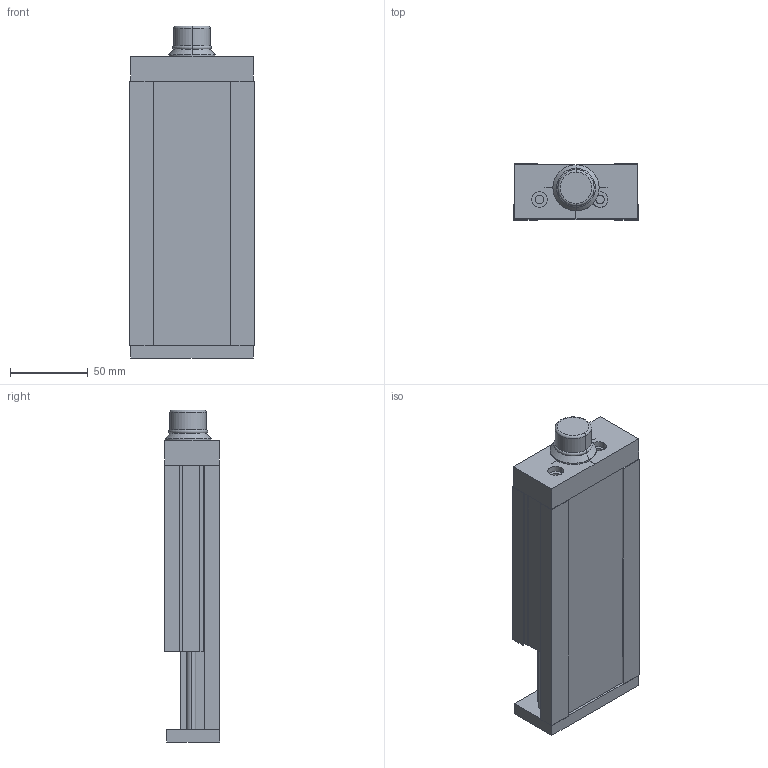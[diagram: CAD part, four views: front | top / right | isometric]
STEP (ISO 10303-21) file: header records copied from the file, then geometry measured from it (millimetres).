
FILE_DESCRIPTION (( 'STEP AP203' ), '1' );
FILE_NAME ('domiLINE 80 Hub 50.STEP', '2004-01-12T08:57:12', ( '' ), ( '' ), 'SwSTEP 2.0', 'SolidWorks 2003064', '' );
FILE_SCHEMA (( 'CONFIG_CONTROL_DESIGN' ));
Length unit declared in the file: millimetre
Products named in the file (3): domiLINE 80 Hub 50; Aussen neu light 80-+-D003976_ _Standard; dL80 neu light-+-D003977_ _50
Assembly tree (2 placements, depth 2):
  domiLINE 80 Hub 50
    Aussen neu light 80-+-D003976_ _Standard
    dL80 neu light-+-D003977_ _50
Bounding box: 80 x 36 x 213.5 mm (x, y, z)
Volume: 408424.7 mm3; surface area: 109844.2 mm2
Topology: 2 solids, 3 shells, 166 faces, 426 edges, 278 vertices
Faces by surface type: plane 114, cylinder 46, torus 4, cone 2
Entity records: 5333 total; most frequent: CARTESIAN_POINT 875, DIRECTION 872, ORIENTED_EDGE 852, EDGE_CURVE 426, LINE 322, VECTOR 322, VERTEX_POINT 278, AXIS2_PLACEMENT_3D 275
